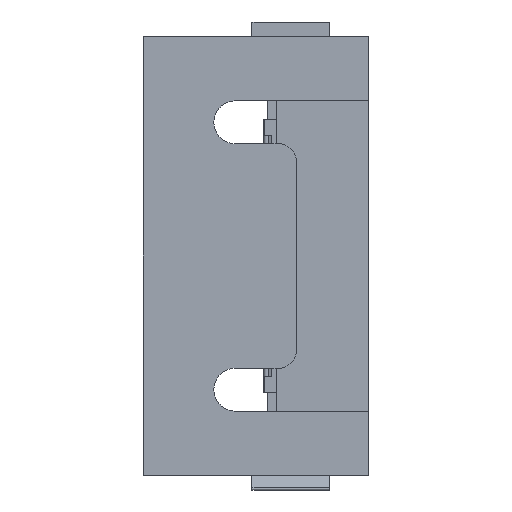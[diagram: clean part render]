
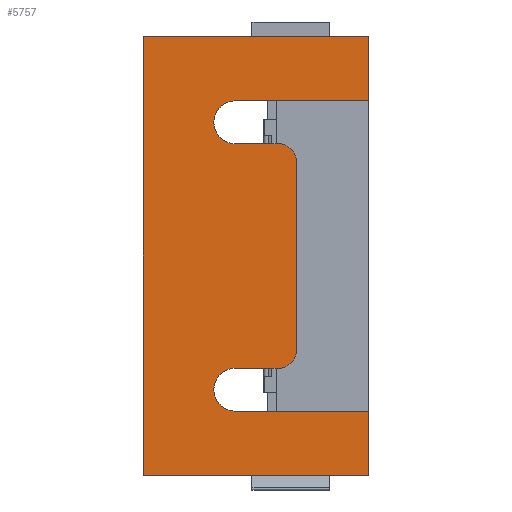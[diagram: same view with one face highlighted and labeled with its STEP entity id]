
A CAD part, left-side view. The second image highlights one B-rep face of the part: STEP entity #5757.
In plain terms, the highlighted planar face has unit normal (-1, 0, 0).
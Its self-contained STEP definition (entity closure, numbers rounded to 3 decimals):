
#189=CIRCLE('',#6136,1.6);
#190=CIRCLE('',#6137,1.4);
#191=CIRCLE('',#6138,1.4);
#192=CIRCLE('',#6139,1.6);
#755=ORIENTED_EDGE('',*,*,#2428,.T.);
#756=ORIENTED_EDGE('',*,*,#2406,.F.);
#757=ORIENTED_EDGE('',*,*,#2156,.F.);
#758=ORIENTED_EDGE('',*,*,#2429,.T.);
#759=ORIENTED_EDGE('',*,*,#2182,.T.);
#760=ORIENTED_EDGE('',*,*,#2411,.F.);
#761=ORIENTED_EDGE('',*,*,#2430,.T.);
#762=ORIENTED_EDGE('',*,*,#2431,.T.);
#763=ORIENTED_EDGE('',*,*,#2432,.T.);
#764=ORIENTED_EDGE('',*,*,#2433,.F.);
#765=ORIENTED_EDGE('',*,*,#2434,.T.);
#766=ORIENTED_EDGE('',*,*,#2435,.F.);
#767=ORIENTED_EDGE('',*,*,#2436,.T.);
#768=ORIENTED_EDGE('',*,*,#2437,.T.);
#2156=EDGE_CURVE('',#3013,#3014,#3574,.T.);
#2182=EDGE_CURVE('',#3038,#3037,#3600,.T.);
#2406=EDGE_CURVE('',#3014,#3233,#3775,.T.);
#2411=EDGE_CURVE('',#3235,#3037,#3780,.T.);
#2428=EDGE_CURVE('',#3244,#3233,#3795,.T.);
#2429=EDGE_CURVE('',#3013,#3038,#3796,.T.);
#2430=EDGE_CURVE('',#3235,#3245,#3797,.T.);
#2431=EDGE_CURVE('',#3245,#3246,#189,.T.);
#2432=EDGE_CURVE('',#3246,#3247,#3798,.T.);
#2433=EDGE_CURVE('',#3248,#3247,#190,.T.);
#2434=EDGE_CURVE('',#3248,#3249,#3799,.T.);
#2435=EDGE_CURVE('',#3250,#3249,#191,.T.);
#2436=EDGE_CURVE('',#3250,#3251,#3800,.T.);
#2437=EDGE_CURVE('',#3251,#3244,#192,.T.);
#3013=VERTEX_POINT('',#8380);
#3014=VERTEX_POINT('',#8382);
#3037=VERTEX_POINT('',#8431);
#3038=VERTEX_POINT('',#8433);
#3233=VERTEX_POINT('',#8898);
#3235=VERTEX_POINT('',#8905);
#3244=VERTEX_POINT('',#8939);
#3245=VERTEX_POINT('',#8942);
#3246=VERTEX_POINT('',#8944);
#3247=VERTEX_POINT('',#8946);
#3248=VERTEX_POINT('',#8948);
#3249=VERTEX_POINT('',#8950);
#3250=VERTEX_POINT('',#8952);
#3251=VERTEX_POINT('',#8954);
#3574=LINE('',#8381,#4270);
#3600=LINE('',#8432,#4296);
#3775=LINE('',#8897,#4471);
#3780=LINE('',#8906,#4476);
#3795=LINE('',#8938,#4491);
#3796=LINE('',#8940,#4492);
#3797=LINE('',#8941,#4493);
#3798=LINE('',#8945,#4494);
#3799=LINE('',#8949,#4495);
#3800=LINE('',#8953,#4496);
#4270=VECTOR('',#6670,1000.);
#4296=VECTOR('',#6698,1000.);
#4471=VECTOR('',#7015,1000.);
#4476=VECTOR('',#7022,1000.);
#4491=VECTOR('',#7055,1000.);
#4492=VECTOR('',#7056,1000.);
#4493=VECTOR('',#7057,1000.);
#4494=VECTOR('',#7060,1000.);
#4495=VECTOR('',#7063,1000.);
#4496=VECTOR('',#7066,1000.);
#4908=EDGE_LOOP('',(#755,#756,#757,#758,#759,#760,#761,#762,#763,#764,#765,
#766,#767,#768));
#5231=FACE_BOUND('',#4908,.T.);
#5535=PLANE('',#6135);
#5757=ADVANCED_FACE('',(#5231),#5535,.F.);
#6135=AXIS2_PLACEMENT_3D('',#8937,#7053,#7054);
#6136=AXIS2_PLACEMENT_3D('',#8943,#7058,#7059);
#6137=AXIS2_PLACEMENT_3D('',#8947,#7061,#7062);
#6138=AXIS2_PLACEMENT_3D('',#8951,#7064,#7065);
#6139=AXIS2_PLACEMENT_3D('',#8955,#7067,#7068);
#6670=DIRECTION('',(0.,-1.,0.));
#6698=DIRECTION('',(0.,-1.,0.));
#7015=DIRECTION('',(0.,0.,-1.));
#7022=DIRECTION('',(0.,0.,-1.));
#7053=DIRECTION('',(1.,0.,0.));
#7054=DIRECTION('',(0.,0.,-1.));
#7055=DIRECTION('',(0.,-1.,0.));
#7056=DIRECTION('',(0.,0.,-1.));
#7057=DIRECTION('',(0.,1.,0.));
#7058=DIRECTION('',(1.,0.,0.));
#7059=DIRECTION('',(0.,0.,-1.));
#7060=DIRECTION('',(0.,-1.,0.));
#7061=DIRECTION('',(1.,0.,0.));
#7062=DIRECTION('',(0.,0.,-1.));
#7063=DIRECTION('',(0.,0.,1.));
#7064=DIRECTION('',(1.,0.,0.));
#7065=DIRECTION('',(0.,0.,-1.));
#7066=DIRECTION('',(0.,1.,0.));
#7067=DIRECTION('',(1.,0.,0.));
#7068=DIRECTION('',(0.,0.,-1.));
#8380=CARTESIAN_POINT('',(0.,16.9,32.8));
#8381=CARTESIAN_POINT('',(0.,16.9,32.8));
#8382=CARTESIAN_POINT('',(0.,0.,32.8));
#8431=CARTESIAN_POINT('',(0.,0.,0.));
#8432=CARTESIAN_POINT('',(0.,16.9,0.));
#8433=CARTESIAN_POINT('',(0.,16.9,0.));
#8897=CARTESIAN_POINT('',(0.,0.,32.8));
#8898=CARTESIAN_POINT('',(0.,0.,28.));
#8905=CARTESIAN_POINT('',(0.,0.,4.8));
#8906=CARTESIAN_POINT('',(0.,0.,32.8));
#8937=CARTESIAN_POINT('',(0.,16.9,32.8));
#8938=CARTESIAN_POINT('',(0.,10.,28.));
#8939=CARTESIAN_POINT('',(0.,10.,28.));
#8940=CARTESIAN_POINT('',(0.,16.9,32.8));
#8941=CARTESIAN_POINT('',(0.,0.,4.8));
#8942=CARTESIAN_POINT('',(0.,10.,4.8));
#8943=CARTESIAN_POINT('',(0.,10.,6.4));
#8944=CARTESIAN_POINT('',(0.,10.,8.));
#8945=CARTESIAN_POINT('',(0.,10.,8.));
#8946=CARTESIAN_POINT('',(0.,6.8,8.));
#8947=CARTESIAN_POINT('',(0.,6.8,9.4));
#8948=CARTESIAN_POINT('',(0.,5.4,9.4));
#8949=CARTESIAN_POINT('',(0.,5.4,9.4));
#8950=CARTESIAN_POINT('',(0.,5.4,23.4));
#8951=CARTESIAN_POINT('',(0.,6.8,23.4));
#8952=CARTESIAN_POINT('',(0.,6.8,24.8));
#8953=CARTESIAN_POINT('',(0.,6.8,24.8));
#8954=CARTESIAN_POINT('',(0.,10.,24.8));
#8955=CARTESIAN_POINT('',(0.,10.,26.4));
